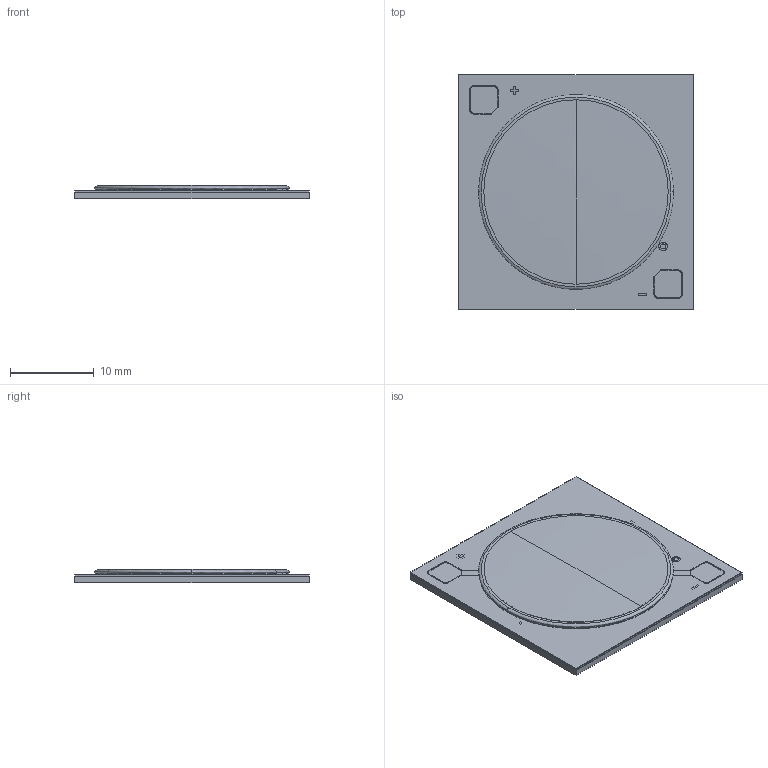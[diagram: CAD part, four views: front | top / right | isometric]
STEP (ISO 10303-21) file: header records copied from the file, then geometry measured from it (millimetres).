
FILE_DESCRIPTION (( 'STEP AP203' ), '1' );
FILE_NAME ('V22_Marketing_Model.STEP', '2015-10-20T00:49:31', ( '' ), ( '' ), 'SwSTEP 2.0', 'SolidWorks 2014', '' );
FILE_SCHEMA (( 'CONFIG_CONTROL_DESIGN' ));
Length unit declared in the file: millimetre
Products named in the file (8): V22_PH; V22_Marketing_Model; V22_base_Round_Center; V22_DAH_Round_Center; V22_D_Round_Center; V22_Au_Cu_Ni; V22_Sm; V22_Rd
Assembly tree (7 placements, depth 2):
  V22_Marketing_Model
    V22_base_Round_Center
    V22_DAH_Round_Center
    V22_D_Round_Center
    V22_Au_Cu_Ni
    V22_Sm
    V22_Rd
    V22_PH
Bounding box: 28 x 28 x 1.65 mm (x, y, z)
Volume: 740 mm3; surface area: 5093.7 mm2
Topology: 9 solids, 9 shells, 120 faces, 295 edges, 195 vertices
Faces by surface type: plane 83, cylinder 27, bspline 8, torus 2
Entity records: 4451 total; most frequent: CARTESIAN_POINT 722, DIRECTION 601, ORIENTED_EDGE 586, EDGE_CURVE 293, VECTOR 213, LINE 213, VERTEX_POINT 195, AXIS2_PLACEMENT_3D 194
